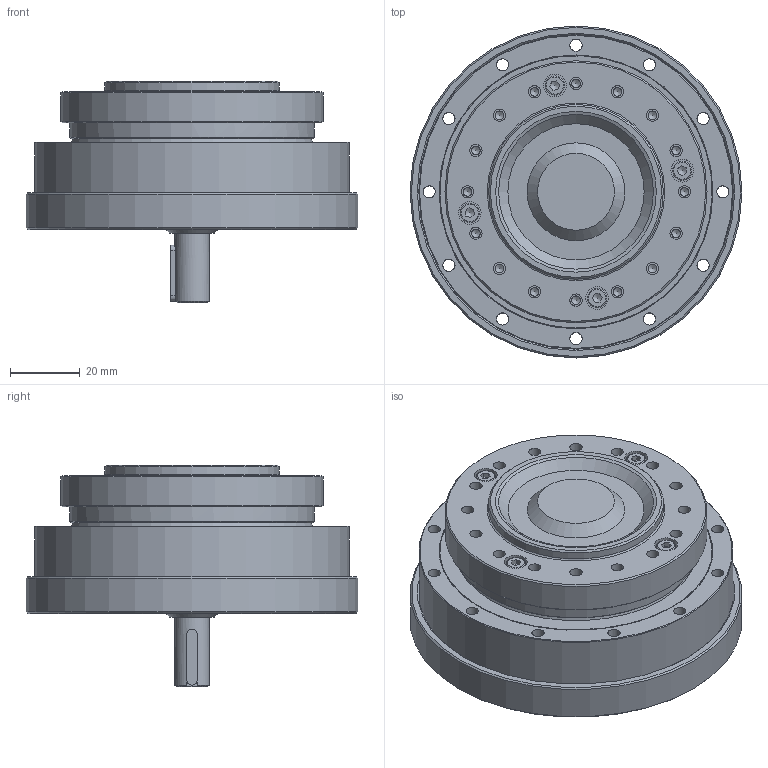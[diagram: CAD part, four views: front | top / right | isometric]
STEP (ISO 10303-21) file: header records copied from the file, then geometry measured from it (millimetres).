
FILE_DESCRIPTION(/* description */ (''),/* implementation_level */ '2;1');
FILE_NAME(/* name */ 'S:\TB00F\研發課二組\機密級\97.\X2\540C4EC151714EAB5340\X0\ (機密級)\H11\欣怡\2023專案追蹤\2.型錄\模型\\X2\5B987DB2\X0\3D檔(NEW)\DGH-AJ\DGH-20-XX-AJ..stp',/* time_stamp */ '2024-09-16T13:57:57+08:00',/* author */ ('bb1128.zheng'),/* organization */ (''),/* preprocessor_version */ 'ST-DEVELOPER v15.2',/* originating_system */ 'Autodesk Inventor 2014',/* authorisation */ '');
FILE_SCHEMA (('AUTOMOTIVE_DESIGN { 1 0 10303 214 3 1 1 }'));
Length unit declared in the file: centimetre
Products named in the file (1): DGH-20-XX-AJ.
Bounding box: 95 x 95 x 63.5 mm (x, y, z)
Volume: 225884.7 mm3; surface area: 37912.8 mm2
Topology: 1 solids, 21 shells, 412 faces, 901 edges, 589 vertices
Faces by surface type: plane 154, cylinder 126, cone 115, torus 17
Full cylindrical faces by diameter (mm): 2.459 x25, 3 x8, 3.5 x64, 5.5 x4, 5.7 x4, 6.5 x8, 10 x1, 50 x1, 70 x2, 75 x1, 78 x1, 78.312 x1, 90 x3, 95 x1
Entity records: 9106 total; most frequent: DIRECTION 1647, CARTESIAN_POINT 1512, ORIENTED_EDGE 1038, EDGE_LOOP 773, AXIS2_PLACEMENT_3D 767, EDGE_CURVE 519, VERTEX_POINT 462, FACE_BOUND 432
